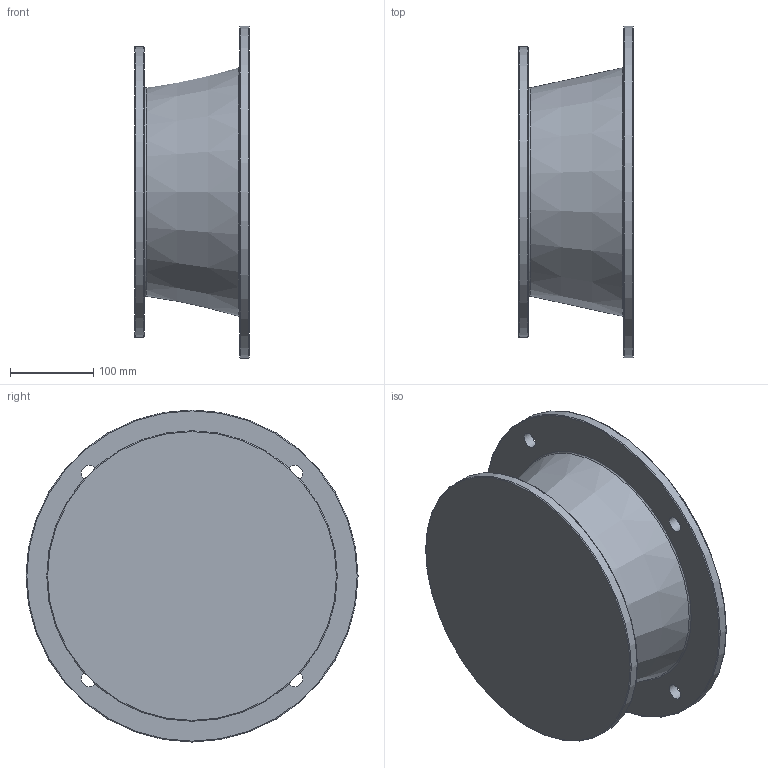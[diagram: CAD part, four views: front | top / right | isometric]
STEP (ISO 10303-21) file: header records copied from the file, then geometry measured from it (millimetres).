
FILE_DESCRIPTION((''),'2;1');
FILE_NAME('C:\Users\oem\Desktop\PAWEŁ\12 PRYWATNE\DualSystem\001 Modele\DKAB100_\DK_100_STEP\200_B5_L138,5.stp','2011-12-13T13:17:16',('oem'),(''),'Autodesk Inventor 2009','Autodesk Inventor 2009','');
FILE_SCHEMA(('AUTOMOTIVE_DESIGN { 1 0 10303 214 1 1 1 1 }'));
Length unit declared in the file: millimetre
Products named in the file (1): 200_B5_L138,5
Bounding box: 138.5 x 400 x 400 mm (x, y, z)
Volume: 2750370.1 mm3; surface area: 580297.5 mm2
Topology: 1 solids, 1 shells, 30 faces, 58 edges, 36 vertices
Faces by surface type: plane 11, cylinder 6, bspline 6, torus 5, cone 2
Full cylindrical faces by diameter (mm): 75 x1, 287.717 x1, 300 x1, 350 x1, 400 x1
Entity records: 895 total; most frequent: CARTESIAN_POINT 281, DIRECTION 120, ORIENTED_EDGE 80, EDGE_LOOP 62, AXIS2_PLACEMENT_3D 55, EDGE_CURVE 40, VERTEX_POINT 36, FACE_BOUND 32
